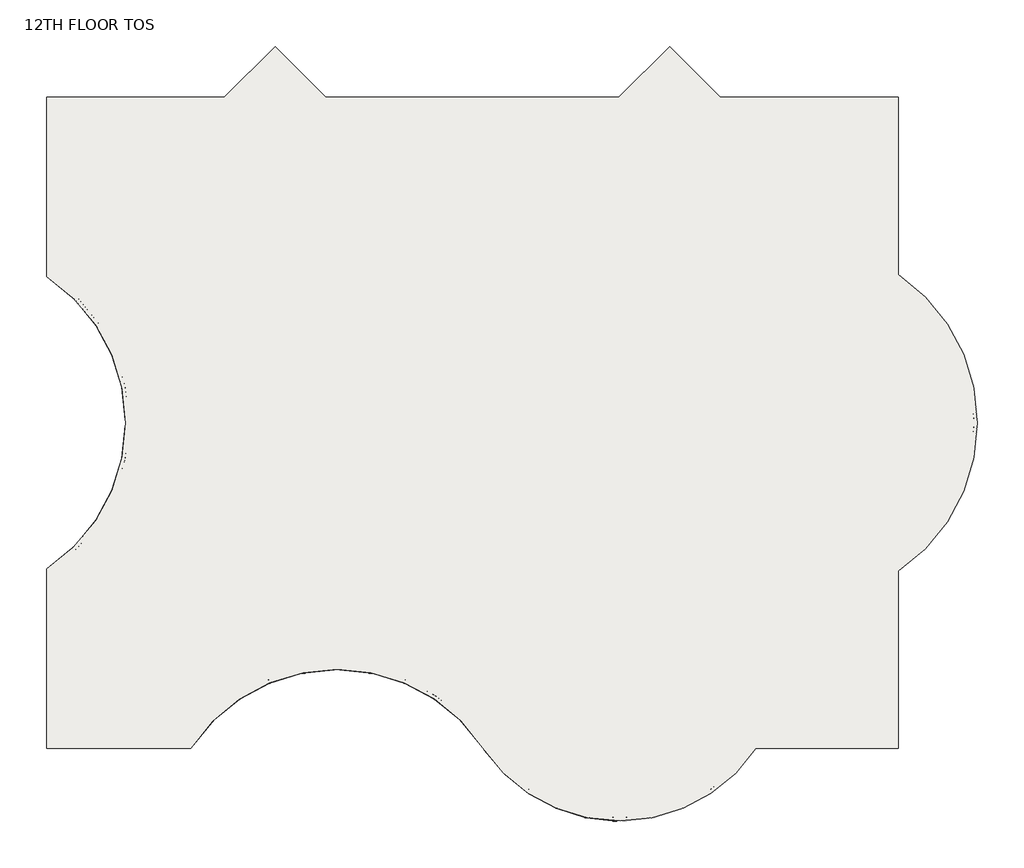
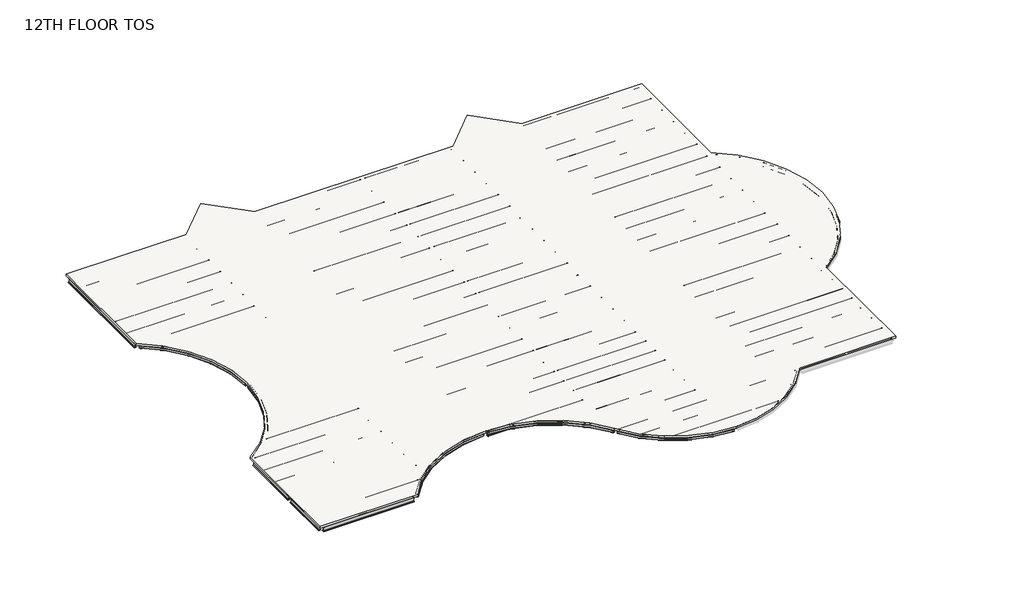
# One storey, part 1 of 2: 86 beams, 1 slab.
"""IFC4 building model written with IfcOpenShell, lengths in millimetres."""

from ifc_helpers import new_model, si_unit, frame, origin, place, context, project, spatial, polyline, circle_curve, transform, mapped, element, save
from ifc_brep_helpers import plane_surface, cylinder_surface, revolved_surface, advanced_brep
from components import m_hss_square_hss203_2x203_2x9_5_914ff4eb, m_hss_square_hss203_2x203_2x9_5_0e3d8e6e, m_hss_square_hss203_2x203_2x9_5_16dc1c03, m_hss_square_hss203_2x203_2x9_5_18346204, m_hss_square_hss203_2x203_2x9_5_d5f1e8c4, ub_universal_beams_ub254x102x28_4e7f3726, ub_universal_beams_ub305x165x40_c4d0385b, ub_universal_beams_ub305x165x40_d3abc31d, ub_universal_beams_ub305x165x40_0c73730f, ub_universal_beams_ub305x165x40_2a963f0c, ub_universal_beams_ub305x165x40_0a5f2f96, ub_universal_beams_ub305x165x40_d1f7c369, ub_universal_beams_ub305x165x40_83d7b7d5, ub_universal_beams_ub305x165x40_729a4ea5, ub_universal_beams_ub305x165x40_71dfa851, ub_universal_beams_ub305x165x40_619b5398, ub_universal_beams_ub305x165x40_c3492db1, ub_universal_beams_ub305x165x40_8f1c350d, ub_universal_beams_ub305x165x40_3afb5f90, ub_universal_beams_ub305x165x40_767d1929, ub_universal_beams_ub305x165x40_5941ca45, ub_universal_beams_ub356x171x51_ef72dcdd, ub_universal_beams_ub356x171x51_7f80702c, ub_universal_beams_ub356x171x51_dfc36663, ub_universal_beams_ub356x171x51_405a853e, ub_universal_beams_ub356x171x51_e47b7055, ub_universal_beams_ub356x171x51_e97f8d2e, ub_universal_beams_ub356x171x51_11d6b780, ub_universal_beams_ub356x171x51_76b2d20b, ub_universal_beams_ub356x171x51_145ecd4b, ub_universal_beams_ub356x171x51_c7dff8d2, ub_universal_beams_ub356x171x51_834c6e34, ub_universal_beams_ub356x171x51_a38b99de, ub_universal_beams_ub356x171x51_d8f4cdde, ub_universal_beams_ub356x171x51_8094f821, ub_universal_beams_ub356x171x51_e661f2e4, ub_universal_beams_ub356x171x51_3ee91673, ub_universal_beams_ub356x171x51_a871b283, ub_universal_beams_ub356x171x51_741bae58

model = new_model("IFC4")

# Units and contexts
model_context = context("Model", 3, world=origin())
ifc_project = project(units=[si_unit("LENGTHUNIT", "METRE", prefix="MILLI")], contexts=[model_context])

# Site, building, storey
site = spatial("IfcSite", under=ifc_project)
building = spatial("IfcBuilding", under=site)
storey = spatial("IfcBuildingStorey", under=building, Name="12TH FLOOR TOS", Elevation=54711.6)

# Beams
placement = place(None, origin())
m_hss_square_hss203_2x203_2x9_5_shape = m_hss_square_hss203_2x203_2x9_5_914ff4eb(model_context)
element("IfcBeam", 1, ObjectType="M_HSS Square : HSS203.2X203.2X9.5", at=placement, inside=storey, context=model_context, shape_type="MappedRepresentation", body=[
    mapped(m_hss_square_hss203_2x203_2x9_5_shape, transform((22710.575, 155.575, 54610.1), x_axis=(-0.552849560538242, 0.8332810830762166, 0.0), y_axis=(-0.8332810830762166, -0.552849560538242, 0.0), z_axis=(0.0, 0.0, 1.0))),
])
m_hss_square_hss203_2x203_2x9_5_2_shape = m_hss_square_hss203_2x203_2x9_5_0e3d8e6e(model_context)
element("IfcBeam", 2, ObjectType="M_HSS Square : HSS203.2X203.2X9.5", at=placement, inside=storey, context=model_context, shape_type="MappedRepresentation", body=[
    mapped(m_hss_square_hss203_2x203_2x9_5_2_shape, transform((155.575, 9299.575, 54610.1), x_axis=(0.8332810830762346, 0.5528495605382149, 0.0), y_axis=(-0.5528495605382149, 0.8332810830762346, 0.0), z_axis=(0.0, 0.0, 1.0))),
])
m_hss_square_hss203_2x203_2x9_5_3_shape = m_hss_square_hss203_2x203_2x9_5_16dc1c03(model_context)
element("IfcBeam", 3, ObjectType="M_HSS Square : HSS203.2X203.2X9.5", at=placement, inside=storey, context=model_context, shape_type="MappedRepresentation", body=[
    mapped(m_hss_square_hss203_2x203_2x9_5_3_shape, transform((155.575, 24539.575, 54610.1), x_axis=(0.8332810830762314, -0.5528495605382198, 0.0), y_axis=(0.5528495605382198, 0.8332810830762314, 0.0), z_axis=(0.0, 0.0, 1.0))),
])
m_hss_square_hss203_2x203_2x9_5_4_shape = m_hss_square_hss203_2x203_2x9_5_18346204(model_context)
element("IfcBeam", 4, ObjectType="M_HSS Square : HSS203.2X203.2X9.5", at=placement, inside=storey, context=model_context, shape_type="MappedRepresentation", body=[
    mapped(m_hss_square_hss203_2x203_2x9_5_4_shape, transform((29734.7266693, -3601.398624, 54610.1), x_axis=(-0.9999968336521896, -0.0025164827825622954, 0.0), y_axis=(0.0025164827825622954, -0.9999968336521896, 0.0), z_axis=(0.0, 0.0, 1.0))),
])
m_hss_square_hss203_2x203_2x9_5_5_shape = m_hss_square_hss203_2x203_2x9_5_d5f1e8c4(model_context)
element("IfcBeam", 5, ObjectType="M_HSS Square : HSS203.2X203.2X9.5", at=placement, inside=storey, context=model_context, shape_type="MappedRepresentation", body=[
    mapped(m_hss_square_hss203_2x203_2x9_5_5_shape, transform((15096.4572854, 4244.5731081, 54610.1), x_axis=(-0.9999997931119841, 0.0006432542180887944, 0.0), y_axis=(-0.0006432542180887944, -0.9999997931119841, 0.0), z_axis=(0.0, 0.0, 1.0))),
])
ub_universal_beams_ub254x102x28_shape = ub_universal_beams_ub254x102x28_4e7f3726(model_context)
element("IfcBeam", 6, ObjectType="UB-Universal Beams : UB254x102x28", at=placement, inside=storey, context=model_context, shape_type="MappedRepresentation", body=[
    mapped(ub_universal_beams_ub254x102x28_shape, transform((9299.575, 3210.915913, 54581.4), x_axis=(0.0, -1.0, 0.0), y_axis=(1.0, 0.0, 0.0), z_axis=(0.0, 0.0, 1.0))),
])
ub_universal_beams_ub305x165x40_shape = ub_universal_beams_ub305x165x40_c4d0385b(model_context)
element("IfcBeam", 7, ObjectType="UB-Universal Beams : UB305x165x40", at=placement, inside=storey, context=model_context, shape_type="MappedRepresentation", body=[
    mapped(ub_universal_beams_ub305x165x40_shape, transform((4727.575, 30635.575, 54559.9), x_axis=(1.0, 0.0, 0.0), y_axis=(0.0, 1.0, 0.0), z_axis=(0.0, 0.0, 1.0))),
])
element("IfcBeam", 8, ObjectType="UB-Universal Beams : UB305x165x40", at=placement, inside=storey, context=model_context, shape_type="MappedRepresentation", body=[
    mapped(ub_universal_beams_ub305x165x40_shape, transform((4727.575, 29111.575, 54559.9), x_axis=(1.0, 0.0, 0.0), y_axis=(0.0, 1.0, 0.0), z_axis=(0.0, 0.0, 1.0))),
])
element("IfcBeam", 9, ObjectType="UB-Universal Beams : UB305x165x40", at=placement, inside=storey, context=model_context, shape_type="MappedRepresentation", body=[
    mapped(ub_universal_beams_ub305x165x40_shape, transform((4727.575, 27587.575, 54559.9), x_axis=(1.0, 0.0, 0.0), y_axis=(0.0, 1.0, 0.0), z_axis=(0.0, 0.0, 1.0))),
])
element("IfcBeam", 10, ObjectType="UB-Universal Beams : UB305x165x40", at=placement, inside=storey, context=model_context, shape_type="MappedRepresentation", body=[
    mapped(ub_universal_beams_ub305x165x40_shape, transform((4727.575, 26063.575, 54559.9), x_axis=(1.0, 0.0, 0.0), y_axis=(0.0, 1.0, 0.0), z_axis=(0.0, 0.0, 1.0))),
])
element("IfcBeam", 11, ObjectType="UB-Universal Beams : UB305x165x40", at=placement, inside=storey, context=model_context, shape_type="MappedRepresentation", body=[
    mapped(ub_universal_beams_ub305x165x40_shape, transform((4727.575, 4727.575, 54559.9), x_axis=(-1.0, 0.0, 0.0), y_axis=(0.0, -1.0, 0.0), z_axis=(0.0, 0.0, 1.0))),
])
element("IfcBeam", 12, ObjectType="UB-Universal Beams : UB305x165x40", at=placement, inside=storey, context=model_context, shape_type="MappedRepresentation", body=[
    mapped(ub_universal_beams_ub305x165x40_shape, transform((4727.575, 6251.575, 54559.9), x_axis=(-1.0, 0.0, 0.0), y_axis=(0.0, -1.0, 0.0), z_axis=(0.0, 0.0, 1.0))),
])
element("IfcBeam", 13, ObjectType="UB-Universal Beams : UB305x165x40", at=placement, inside=storey, context=model_context, shape_type="MappedRepresentation", body=[
    mapped(ub_universal_beams_ub305x165x40_shape, transform((4727.575, 7775.575, 54559.9), x_axis=(-1.0, 0.0, 0.0), y_axis=(0.0, -1.0, 0.0), z_axis=(0.0, 0.0, 1.0))),
])
ub_universal_beams_ub305x165x40_2_shape = ub_universal_beams_ub305x165x40_d3abc31d(model_context)
element("IfcBeam", 14, ObjectType="UB-Universal Beams : UB305x165x40", at=placement, inside=storey, context=model_context, shape_type="MappedRepresentation", body=[
    mapped(ub_universal_beams_ub305x165x40_2_shape, transform((11885.575, 28938.325, 54559.9), x_axis=(1.0, 0.0, 0.0), y_axis=(0.0, 1.0, 0.0), z_axis=(0.0, 0.0, 1.0))),
])
element("IfcBeam", 15, ObjectType="UB-Universal Beams : UB305x165x40", at=placement, inside=storey, context=model_context, shape_type="MappedRepresentation", body=[
    mapped(ub_universal_beams_ub305x165x40_2_shape, transform((11885.575, 27472.075, 54559.9), x_axis=(1.0, 0.0, 0.0), y_axis=(0.0, 1.0, 0.0), z_axis=(0.0, 0.0, 1.0))),
])
element("IfcBeam", 16, ObjectType="UB-Universal Beams : UB305x165x40", at=placement, inside=storey, context=model_context, shape_type="MappedRepresentation", body=[
    mapped(ub_universal_beams_ub305x165x40_2_shape, transform((11885.575, 26005.825, 54559.9), x_axis=(1.0, 0.0, 0.0), y_axis=(0.0, 1.0, 0.0), z_axis=(0.0, 0.0, 1.0))),
])
element("IfcBeam", 17, ObjectType="UB-Universal Beams : UB305x165x40", at=placement, inside=storey, context=model_context, shape_type="MappedRepresentation", body=[
    mapped(ub_universal_beams_ub305x165x40_2_shape, transform((11885.575, 23015.575, 54559.9), x_axis=(1.0, 0.0, 0.0), y_axis=(0.0, 1.0, 0.0), z_axis=(0.0, 0.0, 1.0))),
])
element("IfcBeam", 18, ObjectType="UB-Universal Beams : UB305x165x40", at=placement, inside=storey, context=model_context, shape_type="MappedRepresentation", body=[
    mapped(ub_universal_beams_ub305x165x40_2_shape, transform((11885.575, 21491.575, 54559.9), x_axis=(1.0, 0.0, 0.0), y_axis=(0.0, 1.0, 0.0), z_axis=(0.0, 0.0, 1.0))),
])
element("IfcBeam", 19, ObjectType="UB-Universal Beams : UB305x165x40", at=placement, inside=storey, context=model_context, shape_type="MappedRepresentation", body=[
    mapped(ub_universal_beams_ub305x165x40_2_shape, transform((11885.575, 19967.575, 54559.9), x_axis=(1.0, 0.0, 0.0), y_axis=(0.0, 1.0, 0.0), z_axis=(0.0, 0.0, 1.0))),
])
element("IfcBeam", 20, ObjectType="UB-Universal Beams : UB305x165x40", at=placement, inside=storey, context=model_context, shape_type="MappedRepresentation", body=[
    mapped(ub_universal_beams_ub305x165x40_2_shape, transform((11885.575, 18443.575, 54559.9), x_axis=(1.0, 0.0, 0.0), y_axis=(0.0, 1.0, 0.0), z_axis=(0.0, 0.0, 1.0))),
])
element("IfcBeam", 21, ObjectType="UB-Universal Beams : UB305x165x40", at=placement, inside=storey, context=model_context, shape_type="MappedRepresentation", body=[
    mapped(ub_universal_beams_ub305x165x40_2_shape, transform((11885.575, 15395.575, 54559.9), x_axis=(1.0, 0.0, 0.0), y_axis=(0.0, 1.0, 0.0), z_axis=(0.0, 0.0, 1.0))),
])
element("IfcBeam", 22, ObjectType="UB-Universal Beams : UB305x165x40", at=placement, inside=storey, context=model_context, shape_type="MappedRepresentation", body=[
    mapped(ub_universal_beams_ub305x165x40_2_shape, transform((11885.575, 13871.575, 54559.9), x_axis=(1.0, 0.0, 0.0), y_axis=(0.0, 1.0, 0.0), z_axis=(0.0, 0.0, 1.0))),
])
element("IfcBeam", 23, ObjectType="UB-Universal Beams : UB305x165x40", at=placement, inside=storey, context=model_context, shape_type="MappedRepresentation", body=[
    mapped(ub_universal_beams_ub305x165x40_2_shape, transform((11885.575, 12347.575, 54559.9), x_axis=(1.0, 0.0, 0.0), y_axis=(0.0, 1.0, 0.0), z_axis=(0.0, 0.0, 1.0))),
])
element("IfcBeam", 24, ObjectType="UB-Universal Beams : UB305x165x40", at=placement, inside=storey, context=model_context, shape_type="MappedRepresentation", body=[
    mapped(ub_universal_beams_ub305x165x40_2_shape, transform((11885.575, 10823.575, 54559.9), x_axis=(1.0, 0.0, 0.0), y_axis=(0.0, 1.0, 0.0), z_axis=(0.0, 0.0, 1.0))),
])
element("IfcBeam", 25, ObjectType="UB-Universal Beams : UB305x165x40", at=placement, inside=storey, context=model_context, shape_type="MappedRepresentation", body=[
    mapped(ub_universal_beams_ub305x165x40_2_shape, transform((11885.575, 5026.1840956, 54559.9), x_axis=(-1.0, 0.0, 0.0), y_axis=(0.0, -1.0, 0.0), z_axis=(0.0, 0.0, 1.0))),
])
element("IfcBeam", 26, ObjectType="UB-Universal Beams : UB305x165x40", at=placement, inside=storey, context=model_context, shape_type="MappedRepresentation", body=[
    mapped(ub_universal_beams_ub305x165x40_2_shape, transform((11885.575, 6450.6477304, 54559.9), x_axis=(-1.0, 0.0, 0.0), y_axis=(0.0, -1.0, 0.0), z_axis=(0.0, 0.0, 1.0))),
])
element("IfcBeam", 27, ObjectType="UB-Universal Beams : UB305x165x40", at=placement, inside=storey, context=model_context, shape_type="MappedRepresentation", body=[
    mapped(ub_universal_beams_ub305x165x40_2_shape, transform((11885.575, 7875.1113652, 54559.9), x_axis=(-1.0, 0.0, 0.0), y_axis=(0.0, -1.0, 0.0), z_axis=(0.0, 0.0, 1.0))),
])
ub_universal_beams_ub305x165x40_3_shape = ub_universal_beams_ub305x165x40_0c73730f(model_context)
element("IfcBeam", 28, ObjectType="UB-Universal Beams : UB305x165x40", at=placement, inside=storey, context=model_context, shape_type="MappedRepresentation", body=[
    mapped(ub_universal_beams_ub305x165x40_3_shape, transform((18591.075, 5492.5943214, 54559.9), x_axis=(-1.0, 0.0, 0.0), y_axis=(0.0, -1.0, 0.0), z_axis=(0.0, 0.0, 1.0))),
])
element("IfcBeam", 29, ObjectType="UB-Universal Beams : UB305x165x40", at=placement, inside=storey, context=model_context, shape_type="MappedRepresentation", body=[
    mapped(ub_universal_beams_ub305x165x40_3_shape, transform((18591.075, 6761.5878809, 54559.9), x_axis=(-1.0, 0.0, 0.0), y_axis=(0.0, -1.0, 0.0), z_axis=(0.0, 0.0, 1.0))),
])
element("IfcBeam", 30, ObjectType="UB-Universal Beams : UB305x165x40", at=placement, inside=storey, context=model_context, shape_type="MappedRepresentation", body=[
    mapped(ub_universal_beams_ub305x165x40_3_shape, transform((18591.075, 8030.5814405, 54559.9), x_axis=(-1.0, 0.0, 0.0), y_axis=(0.0, -1.0, 0.0), z_axis=(0.0, 0.0, 1.0))),
])
element("IfcBeam", 31, ObjectType="UB-Universal Beams : UB305x165x40", at=placement, inside=storey, context=model_context, shape_type="MappedRepresentation", body=[
    mapped(ub_universal_beams_ub305x165x40_3_shape, transform((18591.075, 15395.575, 54559.9), x_axis=(1.0, 0.0, 0.0), y_axis=(0.0, 1.0, 0.0), z_axis=(0.0, 0.0, 1.0))),
])
element("IfcBeam", 32, ObjectType="UB-Universal Beams : UB305x165x40", at=placement, inside=storey, context=model_context, shape_type="MappedRepresentation", body=[
    mapped(ub_universal_beams_ub305x165x40_3_shape, transform((18591.075, 13871.575, 54559.9), x_axis=(1.0, 0.0, 0.0), y_axis=(0.0, 1.0, 0.0), z_axis=(0.0, 0.0, 1.0))),
])
element("IfcBeam", 33, ObjectType="UB-Universal Beams : UB305x165x40", at=placement, inside=storey, context=model_context, shape_type="MappedRepresentation", body=[
    mapped(ub_universal_beams_ub305x165x40_3_shape, transform((18591.075, 12347.575, 54559.9), x_axis=(1.0, 0.0, 0.0), y_axis=(0.0, 1.0, 0.0), z_axis=(0.0, 0.0, 1.0))),
])
element("IfcBeam", 34, ObjectType="UB-Universal Beams : UB305x165x40", at=placement, inside=storey, context=model_context, shape_type="MappedRepresentation", body=[
    mapped(ub_universal_beams_ub305x165x40_3_shape, transform((18591.075, 10823.575, 54559.9), x_axis=(1.0, 0.0, 0.0), y_axis=(0.0, 1.0, 0.0), z_axis=(0.0, 0.0, 1.0))),
])
ub_universal_beams_ub305x165x40_4_shape = ub_universal_beams_ub305x165x40_2a963f0c(model_context)
element("IfcBeam", 35, ObjectType="UB-Universal Beams : UB305x165x40", at=placement, inside=storey, context=model_context, shape_type="MappedRepresentation", body=[
    mapped(ub_universal_beams_ub305x165x40_4_shape, transform((26211.075, 15395.575, 54559.9), x_axis=(1.0, 0.0, 0.0), y_axis=(0.0, 1.0, 0.0), z_axis=(0.0, 0.0, 1.0))),
])
element("IfcBeam", 36, ObjectType="UB-Universal Beams : UB305x165x40", at=placement, inside=storey, context=model_context, shape_type="MappedRepresentation", body=[
    mapped(ub_universal_beams_ub305x165x40_4_shape, transform((26211.075, 13871.575, 54559.9), x_axis=(1.0, 0.0, 0.0), y_axis=(0.0, 1.0, 0.0), z_axis=(0.0, 0.0, 1.0))),
])
element("IfcBeam", 37, ObjectType="UB-Universal Beams : UB305x165x40", at=placement, inside=storey, context=model_context, shape_type="MappedRepresentation", body=[
    mapped(ub_universal_beams_ub305x165x40_4_shape, transform((26211.075, 12347.575, 54559.9), x_axis=(1.0, 0.0, 0.0), y_axis=(0.0, 1.0, 0.0), z_axis=(0.0, 0.0, 1.0))),
])
element("IfcBeam", 38, ObjectType="UB-Universal Beams : UB305x165x40", at=placement, inside=storey, context=model_context, shape_type="MappedRepresentation", body=[
    mapped(ub_universal_beams_ub305x165x40_4_shape, transform((26211.075, 10823.575, 54559.9), x_axis=(1.0, 0.0, 0.0), y_axis=(0.0, 1.0, 0.0), z_axis=(0.0, 0.0, 1.0))),
])
element("IfcBeam", 39, ObjectType="UB-Universal Beams : UB305x165x40", at=placement, inside=storey, context=model_context, shape_type="MappedRepresentation", body=[
    mapped(ub_universal_beams_ub305x165x40_4_shape, transform((26211.075, 5508.325, 54559.9), x_axis=(-1.0, 0.0, 0.0), y_axis=(0.0, -1.0, 0.0), z_axis=(0.0, 0.0, 1.0))),
])
element("IfcBeam", 40, ObjectType="UB-Universal Beams : UB305x165x40", at=placement, inside=storey, context=model_context, shape_type="MappedRepresentation", body=[
    mapped(ub_universal_beams_ub305x165x40_4_shape, transform((26211.075, 6772.075, 54559.9), x_axis=(-1.0, 0.0, 0.0), y_axis=(0.0, -1.0, 0.0), z_axis=(0.0, 0.0, 1.0))),
])
element("IfcBeam", 41, ObjectType="UB-Universal Beams : UB305x165x40", at=placement, inside=storey, context=model_context, shape_type="MappedRepresentation", body=[
    mapped(ub_universal_beams_ub305x165x40_4_shape, transform((26211.075, 8035.825, 54559.9), x_axis=(-1.0, 0.0, 0.0), y_axis=(0.0, -1.0, 0.0), z_axis=(0.0, 0.0, 1.0))),
])
element("IfcBeam", 42, ObjectType="UB-Universal Beams : UB305x165x40", at=placement, inside=storey, context=model_context, shape_type="MappedRepresentation", body=[
    mapped(ub_universal_beams_ub305x165x40_4_shape, transform((26211.075, 1518.575, 54559.9), x_axis=(-1.0, 0.0, 0.0), y_axis=(0.0, -1.0, 0.0), z_axis=(0.0, 0.0, 1.0))),
])
element("IfcBeam", 43, ObjectType="UB-Universal Beams : UB305x165x40", at=placement, inside=storey, context=model_context, shape_type="MappedRepresentation", body=[
    mapped(ub_universal_beams_ub305x165x40_4_shape, transform((26211.075, 2881.575, 54559.9), x_axis=(-1.0, 0.0, 0.0), y_axis=(0.0, -1.0, 0.0), z_axis=(0.0, 0.0, 1.0))),
])
ub_universal_beams_ub305x165x40_5_shape = ub_universal_beams_ub305x165x40_0a5f2f96(model_context)
element("IfcBeam", 44, ObjectType="UB-Universal Beams : UB305x165x40", at=placement, inside=storey, context=model_context, shape_type="MappedRepresentation", body=[
    mapped(ub_universal_beams_ub305x165x40_5_shape, transform((29713.575, -2349.0918253, 54559.9), x_axis=(-1.0, 0.0, 0.0), y_axis=(0.0, -1.0, 0.0), z_axis=(0.0, 0.0, 1.0))),
])
ub_universal_beams_ub305x165x40_6_shape = ub_universal_beams_ub305x165x40_d1f7c369(model_context)
element("IfcBeam", 45, ObjectType="UB-Universal Beams : UB305x165x40", at=placement, inside=storey, context=model_context, shape_type="MappedRepresentation", body=[
    mapped(ub_universal_beams_ub305x165x40_6_shape, transform((29713.575, -1096.7584126, 54559.9), x_axis=(-1.0, 0.0, 0.0), y_axis=(0.0, -1.0, 0.0), z_axis=(0.0, 0.0, 1.0))),
])
ub_universal_beams_ub305x165x40_7_shape = ub_universal_beams_ub305x165x40_83d7b7d5(model_context)
element("IfcBeam", 46, ObjectType="UB-Universal Beams : UB305x165x40", at=placement, inside=storey, context=model_context, shape_type="MappedRepresentation", body=[
    mapped(ub_universal_beams_ub305x165x40_7_shape, transform((22157.3041106, 1518.575, 54559.9), x_axis=(-1.0, 0.0, 0.0), y_axis=(0.0, -1.0, 0.0), z_axis=(0.0, 0.0, 1.0))),
])
ub_universal_beams_ub305x165x40_8_shape = ub_universal_beams_ub305x165x40_729a4ea5(model_context)
element("IfcBeam", 47, ObjectType="UB-Universal Beams : UB305x165x40", at=placement, inside=storey, context=model_context, shape_type="MappedRepresentation", body=[
    mapped(ub_universal_beams_ub305x165x40_8_shape, transform((21302.1545844, 2881.575, 54559.9), x_axis=(-1.0, 0.0, 0.0), y_axis=(0.0, -1.0, 0.0), z_axis=(0.0, 0.0, 1.0))),
])
ub_universal_beams_ub305x165x40_9_shape = ub_universal_beams_ub305x165x40_71dfa851(model_context)
element("IfcBeam", 48, ObjectType="UB-Universal Beams : UB305x165x40", at=placement, inside=storey, context=model_context, shape_type="MappedRepresentation", body=[
    mapped(ub_universal_beams_ub305x165x40_9_shape, transform((10511.0323166, 3601.7204608, 54559.9), x_axis=(-1.0, 0.0, 0.0), y_axis=(0.0, -1.0, 0.0), z_axis=(0.0, 0.0, 1.0))),
])
ub_universal_beams_ub305x165x40_10_shape = ub_universal_beams_ub305x165x40_619b5398(model_context)
element("IfcBeam", 49, ObjectType="UB-Universal Beams : UB305x165x40", at=placement, inside=storey, context=model_context, shape_type="MappedRepresentation", body=[
    mapped(ub_universal_beams_ub305x165x40_10_shape, transform((4447.6838282, 1679.575, 54559.9), x_axis=(-1.0, 0.0, 0.0), y_axis=(0.0, -1.0, 0.0), z_axis=(0.0, 0.0, 1.0))),
])
ub_universal_beams_ub305x165x40_11_shape = ub_universal_beams_ub305x165x40_c3492db1(model_context)
element("IfcBeam", 50, ObjectType="UB-Universal Beams : UB305x165x40", at=placement, inside=storey, context=model_context, shape_type="MappedRepresentation", body=[
    mapped(ub_universal_beams_ub305x165x40_11_shape, transform((4727.575, 3203.575, 54559.9), x_axis=(-1.0, 0.0, 0.0), y_axis=(0.0, -1.0, 0.0), z_axis=(0.0, 0.0, 1.0))),
])
ub_universal_beams_ub305x165x40_12_shape = ub_universal_beams_ub305x165x40_8f1c350d(model_context)
element("IfcBeam", 51, ObjectType="UB-Universal Beams : UB305x165x40", at=placement, inside=storey, context=model_context, shape_type="MappedRepresentation", body=[
    mapped(ub_universal_beams_ub305x165x40_12_shape, transform((6708.1318611, 15395.575, 54559.9), x_axis=(1.0, 0.0, 0.0), y_axis=(0.0, 1.0, 0.0), z_axis=(0.0, 0.0, 1.0))),
])
element("IfcBeam", 52, ObjectType="UB-Universal Beams : UB305x165x40", at=placement, inside=storey, context=model_context, shape_type="MappedRepresentation", body=[
    mapped(ub_universal_beams_ub305x165x40_12_shape, transform((6708.1318611, 18443.575, 54559.9), x_axis=(1.0, 0.0, 0.0), y_axis=(0.0, 1.0, 0.0), z_axis=(0.0, 0.0, 1.0))),
])
ub_universal_beams_ub305x165x40_13_shape = ub_universal_beams_ub305x165x40_3afb5f90(model_context)
element("IfcBeam", 53, ObjectType="UB-Universal Beams : UB305x165x40", at=placement, inside=storey, context=model_context, shape_type="MappedRepresentation", body=[
    mapped(ub_universal_beams_ub305x165x40_13_shape, transform((6510.6153272, 13871.575, 54559.9), x_axis=(1.0, 0.0, 0.0), y_axis=(0.0, 1.0, 0.0), z_axis=(0.0, 0.0, 1.0))),
])
element("IfcBeam", 54, ObjectType="UB-Universal Beams : UB305x165x40", at=placement, inside=storey, context=model_context, shape_type="MappedRepresentation", body=[
    mapped(ub_universal_beams_ub305x165x40_13_shape, transform((6510.6153272, 19967.575, 54559.9), x_axis=(1.0, 0.0, 0.0), y_axis=(0.0, 1.0, 0.0), z_axis=(0.0, 0.0, 1.0))),
])
ub_universal_beams_ub305x165x40_14_shape = ub_universal_beams_ub305x165x40_767d1929(model_context)
element("IfcBeam", 55, ObjectType="UB-Universal Beams : UB305x165x40", at=placement, inside=storey, context=model_context, shape_type="MappedRepresentation", body=[
    mapped(ub_universal_beams_ub305x165x40_14_shape, transform((6159.5874928, 12347.575, 54559.9), x_axis=(1.0, 0.0, 0.0), y_axis=(0.0, 1.0, 0.0), z_axis=(0.0, 0.0, 1.0))),
])
element("IfcBeam", 56, ObjectType="UB-Universal Beams : UB305x165x40", at=placement, inside=storey, context=model_context, shape_type="MappedRepresentation", body=[
    mapped(ub_universal_beams_ub305x165x40_14_shape, transform((6159.5874928, 21491.575, 54559.9), x_axis=(1.0, 0.0, 0.0), y_axis=(0.0, 1.0, 0.0), z_axis=(0.0, 0.0, 1.0))),
])
ub_universal_beams_ub305x165x40_15_shape = ub_universal_beams_ub305x165x40_5941ca45(model_context)
element("IfcBeam", 57, ObjectType="UB-Universal Beams : UB305x165x40", at=placement, inside=storey, context=model_context, shape_type="MappedRepresentation", body=[
    mapped(ub_universal_beams_ub305x165x40_15_shape, transform((5607.9405309, 10823.575, 54559.9), x_axis=(1.0, 0.0, 0.0), y_axis=(0.0, 1.0, 0.0), z_axis=(0.0, 0.0, 1.0))),
])
element("IfcBeam", 58, ObjectType="UB-Universal Beams : UB305x165x40", at=placement, inside=storey, context=model_context, shape_type="MappedRepresentation", body=[
    mapped(ub_universal_beams_ub305x165x40_15_shape, transform((5607.9405309, 23015.575, 54559.9), x_axis=(1.0, 0.0, 0.0), y_axis=(0.0, 1.0, 0.0), z_axis=(0.0, 0.0, 1.0))),
])
ub_universal_beams_ub356x171x51_shape = ub_universal_beams_ub356x171x51_ef72dcdd(model_context)
element("IfcBeam", 59, ObjectType="UB-Universal Beams : UB356x171x51", at=placement, inside=storey, context=model_context, shape_type="MappedRepresentation", body=[
    mapped(ub_universal_beams_ub356x171x51_shape, transform((9299.575, 6772.075, 54534.1), x_axis=(0.0, -1.0, 0.0), y_axis=(1.0, 0.0, 0.0), z_axis=(0.0, 0.0, 1.0))),
])
element("IfcBeam", 60, ObjectType="UB-Universal Beams : UB356x171x51", at=placement, inside=storey, context=model_context, shape_type="MappedRepresentation", body=[
    mapped(ub_universal_beams_ub356x171x51_shape, transform((29711.575, 6772.075, 54534.1), x_axis=(0.0, 1.0, 0.0), y_axis=(-1.0, 0.0, 0.0), z_axis=(0.0, 0.0, 1.0))),
])
element("IfcBeam", 61, ObjectType="UB-Universal Beams : UB356x171x51", at=placement, inside=storey, context=model_context, shape_type="MappedRepresentation", body=[
    mapped(ub_universal_beams_ub356x171x51_shape, transform((22710.575, 6772.075, 54534.1), x_axis=(0.0, -1.0, 0.0), y_axis=(1.0, 0.0, 0.0), z_axis=(0.0, 0.0, 1.0))),
])
ub_universal_beams_ub356x171x51_2_shape = ub_universal_beams_ub356x171x51_7f80702c(model_context)
element("IfcBeam", 62, ObjectType="UB-Universal Beams : UB356x171x51", at=placement, inside=storey, context=model_context, shape_type="MappedRepresentation", body=[
    mapped(ub_universal_beams_ub356x171x51_2_shape, transform((3813.075, 155.575, 54534.1), x_axis=(-1.0, 0.0, 0.0), y_axis=(0.0, -1.0, 0.0), z_axis=(0.0, 0.0, 1.0))),
])
ub_universal_beams_ub356x171x51_3_shape = ub_universal_beams_ub356x171x51_dfc36663(model_context)
element("IfcBeam", 63, ObjectType="UB-Universal Beams : UB356x171x51", at=placement, inside=storey, context=model_context, shape_type="MappedRepresentation", body=[
    mapped(ub_universal_beams_ub356x171x51_3_shape, transform((155.575, 2200.075, 54534.1), x_axis=(0.0, 1.0, 0.0), y_axis=(-1.0, 0.0, 0.0), z_axis=(0.0, 0.0, 1.0))),
])
ub_universal_beams_ub356x171x51_4_shape = ub_universal_beams_ub356x171x51_405a853e(model_context)
element("IfcBeam", 64, ObjectType="UB-Universal Beams : UB356x171x51", at=placement, inside=storey, context=model_context, shape_type="MappedRepresentation", body=[
    mapped(ub_universal_beams_ub356x171x51_4_shape, transform((155.575, 6772.075, 54534.1), x_axis=(0.0, 1.0, 0.0), y_axis=(-1.0, 0.0, 0.0), z_axis=(0.0, 0.0, 1.0))),
])
ub_universal_beams_ub356x171x51_5_shape = ub_universal_beams_ub356x171x51_e47b7055(model_context)
element("IfcBeam", 65, ObjectType="UB-Universal Beams : UB356x171x51", at=placement, inside=storey, context=model_context, shape_type="MappedRepresentation", body=[
    mapped(ub_universal_beams_ub356x171x51_5_shape, transform((155.575, 29111.575, 54534.1), x_axis=(0.0, 1.0, 0.0), y_axis=(-1.0, 0.0, 0.0), z_axis=(0.0, 0.0, 1.0))),
])
ub_universal_beams_ub356x171x51_6_shape = ub_universal_beams_ub356x171x51_e97f8d2e(model_context)
element("IfcBeam", 66, ObjectType="UB-Universal Beams : UB356x171x51", at=placement, inside=storey, context=model_context, shape_type="MappedRepresentation", body=[
    mapped(ub_universal_beams_ub356x171x51_6_shape, transform((4727.575, 24539.575, 54534.1), x_axis=(1.0, 0.0, 0.0), y_axis=(0.0, 1.0, 0.0), z_axis=(0.0, 0.0, 1.0))),
])
ub_universal_beams_ub356x171x51_7_shape = ub_universal_beams_ub356x171x51_11d6b780(model_context)
element("IfcBeam", 67, ObjectType="UB-Universal Beams : UB356x171x51", at=placement, inside=storey, context=model_context, shape_type="MappedRepresentation", body=[
    mapped(ub_universal_beams_ub356x171x51_7_shape, transform((11885.575, 24539.575, 54534.1), x_axis=(1.0, 0.0, 0.0), y_axis=(0.0, 1.0, 0.0), z_axis=(0.0, 0.0, 1.0))),
])
element("IfcBeam", 68, ObjectType="UB-Universal Beams : UB356x171x51", at=placement, inside=storey, context=model_context, shape_type="MappedRepresentation", body=[
    mapped(ub_universal_beams_ub356x171x51_7_shape, transform((11885.575, 9299.575, 54534.1), x_axis=(-1.0, 0.0, 0.0), y_axis=(0.0, -1.0, 0.0), z_axis=(0.0, 0.0, 1.0))),
])
element("IfcBeam", 69, ObjectType="UB-Universal Beams : UB356x171x51", at=placement, inside=storey, context=model_context, shape_type="MappedRepresentation", body=[
    mapped(ub_universal_beams_ub356x171x51_7_shape, transform((11885.575, 16919.575, 54534.1), x_axis=(1.0, 0.0, 0.0), y_axis=(0.0, 1.0, 0.0), z_axis=(0.0, 0.0, 1.0))),
])
ub_universal_beams_ub356x171x51_8_shape = ub_universal_beams_ub356x171x51_76b2d20b(model_context)
element("IfcBeam", 70, ObjectType="UB-Universal Beams : UB356x171x51", at=placement, inside=storey, context=model_context, shape_type="MappedRepresentation", body=[
    mapped(ub_universal_beams_ub356x171x51_8_shape, transform((18591.075, 9299.575, 54534.1), x_axis=(-1.0, 0.0, 0.0), y_axis=(0.0, -1.0, 0.0), z_axis=(0.0, 0.0, 1.0))),
])
ub_universal_beams_ub356x171x51_9_shape = ub_universal_beams_ub356x171x51_145ecd4b(model_context)
element("IfcBeam", 71, ObjectType="UB-Universal Beams : UB356x171x51", at=placement, inside=storey, context=model_context, shape_type="MappedRepresentation", body=[
    mapped(ub_universal_beams_ub356x171x51_9_shape, transform((26211.075, 9299.575, 54534.1), x_axis=(-1.0, 0.0, 0.0), y_axis=(0.0, -1.0, 0.0), z_axis=(0.0, 0.0, 1.0))),
])
element("IfcBeam", 72, ObjectType="UB-Universal Beams : UB356x171x51", at=placement, inside=storey, context=model_context, shape_type="MappedRepresentation", body=[
    mapped(ub_universal_beams_ub356x171x51_9_shape, transform((26211.075, 4244.575, 54534.1), x_axis=(-1.0, 0.0, 0.0), y_axis=(0.0, -1.0, 0.0), z_axis=(0.0, 0.0, 1.0))),
])
ub_universal_beams_ub356x171x51_10_shape = ub_universal_beams_ub356x171x51_c7dff8d2(model_context)
element("IfcBeam", 73, ObjectType="UB-Universal Beams : UB356x171x51", at=placement, inside=storey, context=model_context, shape_type="MappedRepresentation", body=[
    mapped(ub_universal_beams_ub356x171x51_10_shape, transform((4727.575, 9299.575, 54534.1), x_axis=(-1.0, 0.0, 0.0), y_axis=(0.0, -1.0, 0.0), z_axis=(0.0, 0.0, 1.0))),
])
ub_universal_beams_ub356x171x51_11_shape = ub_universal_beams_ub356x171x51_834c6e34(model_context)
element("IfcBeam", 74, ObjectType="UB-Universal Beams : UB356x171x51", at=placement, inside=storey, context=model_context, shape_type="MappedRepresentation", body=[
    mapped(ub_universal_beams_ub356x171x51_11_shape, transform((14471.575, 6761.5878809, 54534.1), x_axis=(0.0, -1.0, 0.0), y_axis=(1.0, 0.0, 0.0), z_axis=(0.0, 0.0, 1.0))),
])
ub_universal_beams_ub356x171x51_12_shape = ub_universal_beams_ub356x171x51_a38b99de(model_context)
element("IfcBeam", 75, ObjectType="UB-Universal Beams : UB356x171x51", at=placement, inside=storey, context=model_context, shape_type="MappedRepresentation", body=[
    mapped(ub_universal_beams_ub356x171x51_12_shape, transform((9299.575, 13109.575, 54534.1), x_axis=(0.0, 1.0, 0.0), y_axis=(-1.0, 0.0, 0.0), z_axis=(0.0, 0.0, 1.0))),
])
element("IfcBeam", 76, ObjectType="UB-Universal Beams : UB356x171x51", at=placement, inside=storey, context=model_context, shape_type="MappedRepresentation", body=[
    mapped(ub_universal_beams_ub356x171x51_12_shape, transform((9299.575, 20729.575, 54534.1), x_axis=(0.0, 1.0, 0.0), y_axis=(-1.0, 0.0, 0.0), z_axis=(0.0, 0.0, 1.0))),
])
element("IfcBeam", 77, ObjectType="UB-Universal Beams : UB356x171x51", at=placement, inside=storey, context=model_context, shape_type="MappedRepresentation", body=[
    mapped(ub_universal_beams_ub356x171x51_12_shape, transform((14471.575, 20729.575, 54534.1), x_axis=(0.0, -1.0, 0.0), y_axis=(1.0, 0.0, 0.0), z_axis=(0.0, 0.0, 1.0))),
])
element("IfcBeam", 78, ObjectType="UB-Universal Beams : UB356x171x51", at=placement, inside=storey, context=model_context, shape_type="MappedRepresentation", body=[
    mapped(ub_universal_beams_ub356x171x51_12_shape, transform((14471.575, 13109.575, 54534.1), x_axis=(0.0, -1.0, 0.0), y_axis=(1.0, 0.0, 0.0), z_axis=(0.0, 0.0, 1.0))),
])
element("IfcBeam", 79, ObjectType="UB-Universal Beams : UB356x171x51", at=placement, inside=storey, context=model_context, shape_type="MappedRepresentation", body=[
    mapped(ub_universal_beams_ub356x171x51_12_shape, transform((22710.575, 13109.575, 54534.1), x_axis=(0.0, -1.0, 0.0), y_axis=(1.0, 0.0, 0.0), z_axis=(0.0, 0.0, 1.0))),
])
element("IfcBeam", 80, ObjectType="UB-Universal Beams : UB356x171x51", at=placement, inside=storey, context=model_context, shape_type="MappedRepresentation", body=[
    mapped(ub_universal_beams_ub356x171x51_12_shape, transform((29711.575, 13109.575, 54534.1), x_axis=(0.0, 1.0, 0.0), y_axis=(-1.0, 0.0, 0.0), z_axis=(0.0, 0.0, 1.0))),
])
ub_universal_beams_ub356x171x51_13_shape = ub_universal_beams_ub356x171x51_d8f4cdde(model_context)
element("IfcBeam", 81, ObjectType="UB-Universal Beams : UB356x171x51", at=placement, inside=storey, context=model_context, shape_type="MappedRepresentation", body=[
    mapped(ub_universal_beams_ub356x171x51_13_shape, transform((9299.575, 29111.575, 54534.1), x_axis=(0.0, 1.0, 0.0), y_axis=(-1.0, 0.0, 0.0), z_axis=(0.0, 0.0, 1.0))),
])
ub_universal_beams_ub356x171x51_14_shape = ub_universal_beams_ub356x171x51_8094f821(model_context)
element("IfcBeam", 82, ObjectType="UB-Universal Beams : UB356x171x51", at=placement, inside=storey, context=model_context, shape_type="MappedRepresentation", body=[
    mapped(ub_universal_beams_ub356x171x51_14_shape, transform((6772.075, 16919.575, 54534.1), x_axis=(1.0, 0.0, 0.0), y_axis=(0.0, 1.0, 0.0), z_axis=(0.0, 0.0, 1.0))),
])
ub_universal_beams_ub356x171x51_15_shape = ub_universal_beams_ub356x171x51_e661f2e4(model_context)
element("IfcBeam", 83, ObjectType="UB-Universal Beams : UB356x171x51", at=placement, inside=storey, context=model_context, shape_type="MappedRepresentation", body=[
    mapped(ub_universal_beams_ub356x171x51_15_shape, transform((29713.575, 155.575, 54534.1), x_axis=(-1.0, 0.0, 0.0), y_axis=(0.0, -1.0, 0.0), z_axis=(0.0, 0.0, 1.0))),
])
ub_universal_beams_ub356x171x51_16_shape = ub_universal_beams_ub356x171x51_3ee91673(model_context)
element("IfcBeam", 84, ObjectType="UB-Universal Beams : UB356x171x51", at=placement, inside=storey, context=model_context, shape_type="MappedRepresentation", body=[
    mapped(ub_universal_beams_ub356x171x51_16_shape, transform((18900.575, 4244.575, 54534.1), x_axis=(-1.0, 0.0, 0.0), y_axis=(0.0, -1.0, 0.0), z_axis=(0.0, 0.0, 1.0))),
])
ub_universal_beams_ub356x171x51_17_shape = ub_universal_beams_ub356x171x51_a871b283(model_context)
element("IfcBeam", 85, ObjectType="UB-Universal Beams : UB356x171x51", at=placement, inside=storey, context=model_context, shape_type="MappedRepresentation", body=[
    mapped(ub_universal_beams_ub356x171x51_17_shape, transform((22710.575, 2200.075, 54534.1), x_axis=(0.0, -1.0, 0.0), y_axis=(1.0, 0.0, 0.0), z_axis=(0.0, 0.0, 1.0))),
])
ub_universal_beams_ub356x171x51_18_shape = ub_universal_beams_ub356x171x51_741bae58(model_context)
element("IfcBeam", 86, ObjectType="UB-Universal Beams : UB356x171x51", at=placement, inside=storey, context=model_context, shape_type="MappedRepresentation", body=[
    mapped(ub_universal_beams_ub356x171x51_18_shape, transform((29711.575, 2200.075, 54534.1), x_axis=(0.0, -1.0, 0.0), y_axis=(1.0, 0.0, 0.0), z_axis=(0.0, 0.0, 1.0))),
])

# Slab
element("IfcSlab", 87, ObjectType="152mm Concrete With 50mm Metal Deck", at=placement, inside=storey, context=model_context, shape_type="AdvancedBrep", body=[
    advanced_brep(
    [(69.575, 33769.575, 54711.6), (4244.575, 33769.575, 54711.6), (9263.9526336, 33769.575, 54711.6), (11885.575, 36391.1973664, 54711.6), (14507.1973664, 33769.575, 54711.6), (22710.575, 33769.575, 54711.6), (29675.9526336, 33769.575, 54711.6), (32297.575, 36391.1973664, 54711.6), (34919.1973664, 33769.575, 54711.6), (44113.575, 33769.575, 54711.6), (44113.575, 24585.5849139, 54711.6), (44113.575, 9253.5650861, 54711.6), (44113.575, 4244.575, 54711.6), (44113.575, 69.575, 54711.6), (36762.5616677, 69.575, 54711.6), (29734.9430869, -3687.3983517, 54711.6), (22638.9224102, 108.0154965, 54711.6), (15096.4019655, 4158.5731259, 54711.6), (7516.8644167, 69.575, 54711.6), (69.575, 69.575, 54711.6), (69.575, 4244.575, 54711.6), (69.575, 9345.8644167, 54711.6), (69.575, 24493.2855833, 54711.6), (69.575, 33769.575, 54863.6), (69.575, 24493.2855833, 54863.6), (69.575, 9345.8644167, 54863.6), (69.575, 4244.575, 54863.6), (69.575, 69.575, 54863.6), (7516.8644167, 69.575, 54863.6), (15096.4019655, 4158.5731259, 54863.6), (22638.9128269, 108.0299378, 54863.6), (29734.9430869, -3687.3983517, 54863.6), (36762.5616677, 69.575, 54863.6), (44113.575, 69.575, 54863.6), (44113.575, 4244.575, 54863.6), (44113.575, 9253.5650861, 54863.6), (44113.575, 24585.5849139, 54863.6), (44113.575, 33769.575, 54863.6), (34919.1973664, 33769.575, 54863.6), (32297.575, 36391.1973664, 54863.6), (29675.9526336, 33769.575, 54863.6), (22710.575, 33769.575, 54863.6), (14507.1973664, 33769.575, 54863.6), (11885.575, 36391.1973664, 54863.6), (9263.9526336, 33769.575, 54863.6), (4244.575, 33769.575, 54863.6)],
    [
        (0, 1),
        (1, 2),
        (2, 3),
        (3, 4),
        (4, 5),
        (5, 6),
        (6, 7),
        (7, 8),
        (8, 9),
        (9, 10),
        (10, 11, circle_curve(frame((38972.0016324, 16919.575, 54711.6), z_axis=(0.0, 0.0, -1.0), x_axis=(1.0, 0.0, 0.0)), 9230.5733676)),
        (11, 12),
        (12, 13),
        (13, 14),
        (14, 15, circle_curve(frame((29713.575, 4803.825732, 54711.6), z_axis=(0.0, 0.0, -1.0), x_axis=(1.0, 0.0, 0.0)), 8491.2509699)),
        (15, 16, circle_curve(frame((29713.575, 4803.825732, 54711.6), z_axis=(0.0, 0.0, -1.0), x_axis=(1.0, 0.0, 0.0)), 8491.2509699)),
        (16, 17, circle_curve(frame((15090.575, -4899.9983676, 54711.6), z_axis=(0.0, 0.0, 1.0), x_axis=(1.0, 0.0, 0.0)), 9058.5733676)),
        (17, 18, circle_curve(frame((15090.575, -4899.9983676, 54711.6), z_axis=(0.0, 0.0, 1.0), x_axis=(1.0, 0.0, 0.0)), 9058.5733676)),
        (18, 19),
        (19, 20),
        (20, 21),
        (21, 22, circle_curve(frame((-4899.9983676, 16919.575, 54711.6), z_axis=(0.0, 0.0, 1.0), x_axis=(1.0, 0.0, 0.0)), 9058.5733676)),
        (22, 0),
        (23, 24),
        (24, 25, circle_curve(frame((-4899.9983676, 16919.575, 54863.6), z_axis=(0.0, 0.0, -1.0), x_axis=(1.0, 0.0, 0.0)), 9058.5733676)),
        (25, 26),
        (26, 27),
        (27, 28),
        (28, 29, circle_curve(frame((15090.575, -4899.9983676, 54863.6), z_axis=(0.0, 0.0, -1.0), x_axis=(1.0, 0.0, 0.0)), 9058.5733676)),
        (29, 30, circle_curve(frame((15090.575, -4899.9983676, 54863.6), z_axis=(0.0, 0.0, -1.0), x_axis=(1.0, 0.0, 0.0)), 9058.5733676)),
        (30, 31, circle_curve(frame((29713.575, 4803.825732, 54863.6), z_axis=(0.0, 0.0, 1.0), x_axis=(1.0, 0.0, 0.0)), 8491.2509699)),
        (31, 32, circle_curve(frame((29713.575, 4803.825732, 54863.6), z_axis=(0.0, 0.0, 1.0), x_axis=(1.0, 0.0, 0.0)), 8491.2509699)),
        (32, 33),
        (33, 34),
        (34, 35),
        (35, 36, circle_curve(frame((38972.0016324, 16919.575, 54863.6), z_axis=(0.0, 0.0, 1.0), x_axis=(1.0, 0.0, 0.0)), 9230.5733676)),
        (36, 37),
        (37, 38),
        (38, 39),
        (39, 40),
        (40, 41),
        (41, 42),
        (42, 43),
        (43, 44),
        (44, 45),
        (45, 23),
        (0, 23),
        (45, 1),
        (44, 2),
        (43, 3),
        (42, 4),
        (41, 5),
        (40, 6),
        (39, 7),
        (38, 8),
        (37, 9),
        (36, 10),
        (35, 11),
        (34, 12),
        (33, 13),
        (32, 14),
        (31, 15),
        (30, 16),
        (29, 17),
        (28, 18),
        (27, 19),
        (26, 20),
        (25, 21),
        (24, 22),
    ],
    [
        plane_surface(frame((155.575, 33769.575, 54711.6), z_axis=(0.0, 0.0, -1.0), x_axis=(1.0, 0.0, 0.0))),
        plane_surface(frame((155.575, 33769.575, 54863.6), z_axis=(0.0, 0.0, 1.0), x_axis=(-1.0, 0.0, 0.0))),
        plane_surface(frame((69.575, 33769.575, 54711.6), z_axis=(0.0, 1.0, 0.0), x_axis=(0.0, 0.0, 1.0))),
        plane_surface(frame((4244.575, 33769.575, 54711.6), z_axis=(0.0, 1.0, 0.0), x_axis=(0.0, 0.0, 1.0))),
        plane_surface(frame((9263.9526336, 33769.575, 54711.6), z_axis=(-0.7071067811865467, 0.7071067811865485, 0.0), x_axis=(0.0, 0.0, 1.0))),
        plane_surface(frame((11885.575, 36391.1973664, 54711.6), z_axis=(0.7071067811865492, 0.7071067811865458, 0.0), x_axis=(0.0, 0.0, 1.0))),
        plane_surface(frame((14507.1973664, 33769.575, 54711.6), z_axis=(0.0, 1.0, 0.0), x_axis=(0.0, 0.0, 1.0))),
        plane_surface(frame((22710.575, 33769.575, 54711.6), z_axis=(0.0, 1.0, 0.0), x_axis=(0.0, 0.0, 1.0))),
        plane_surface(frame((29675.9526336, 33769.575, 54711.6), z_axis=(-0.7071067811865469, 0.7071067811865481, 0.0), x_axis=(0.0, 0.0, 1.0))),
        plane_surface(frame((32297.575, 36391.1973664, 54711.6), z_axis=(0.7071067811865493, 0.7071067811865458, 0.0), x_axis=(0.0, 0.0, 1.0))),
        plane_surface(frame((34919.1973664, 33769.575, 54711.6), z_axis=(0.0, 1.0, 0.0), x_axis=(0.0, 0.0, 1.0))),
        plane_surface(frame((44113.575, 33769.575, 54711.6), z_axis=(1.0, 0.0, 0.0), x_axis=(0.0, 0.0, 1.0))),
        cylinder_surface(frame((38972.0016324, 16919.575, 54863.6), z_axis=(0.0, 0.0, -1.0), x_axis=(1.0, 0.0, 0.0)), 9230.5733676),
        plane_surface(frame((44113.575, 9253.5650861, 54711.6), z_axis=(1.0, 0.0, 0.0), x_axis=(0.0, 0.0, 1.0))),
        plane_surface(frame((44113.575, 4244.575, 54711.6), z_axis=(1.0, 0.0, 0.0), x_axis=(0.0, 0.0, 1.0))),
        plane_surface(frame((44113.575, 69.575, 54711.6), z_axis=(0.0, -1.0, 0.0), x_axis=(0.0, 0.0, 1.0))),
        cylinder_surface(frame((29713.575, 4803.825732, 54863.6), z_axis=(0.0, 0.0, -1.0), x_axis=(1.0, 0.0, 0.0)), 8491.2509699),
        revolved_surface(polyline([(24149.1483676, -4899.9983676, 54863.6), (24149.1483676, -4899.9983676, 54711.6)]), (15090.575, -4899.9983676, 54863.6), (0.0, 0.0, 1.0)),
        plane_surface(frame((7516.8644167, 69.575, 54711.6), z_axis=(0.0, -1.0, 0.0), x_axis=(0.0, 0.0, 1.0))),
        plane_surface(frame((69.575, 69.575, 54711.6), z_axis=(-1.0, 0.0, 0.0), x_axis=(0.0, 0.0, 1.0))),
        plane_surface(frame((69.575, 4244.575, 54711.6), z_axis=(-1.0, 0.0, 0.0), x_axis=(0.0, 0.0, 1.0))),
        revolved_surface(polyline([(4158.575, 16919.575, 54863.6), (4158.575, 16919.575, 54711.6)]), (-4899.9983676, 16919.575, 54863.6), (0.0, 0.0, 1.0)),
        plane_surface(frame((69.575, 24493.2855833, 54711.6), z_axis=(-1.0, 0.0, 0.0), x_axis=(0.0, 0.0, 1.0))),
    ],
    [
        (0, [[1, 2, 3, 4, 5, 6, 7, 8, 9, 10, 11, 12, 13, 14, 15, 16, 17, 18, 19, 20, 21, 22, 23]]),
        (1, [[24, 25, 26, 27, 28, 29, 30, 31, 32, 33, 34, 35, 36, 37, 38, 39, 40, 41, 42, 43, 44, 45, 46]]),
        (2, [[-1, 47, -46, 48]]),
        (3, [[-2, -48, -45, 49]]),
        (4, [[-3, -49, -44, 50]]),
        (5, [[-4, -50, -43, 51]]),
        (6, [[-5, -51, -42, 52]]),
        (7, [[-6, -52, -41, 53]]),
        (8, [[-7, -53, -40, 54]]),
        (9, [[-8, -54, -39, 55]]),
        (10, [[-9, -55, -38, 56]]),
        (11, [[-10, -56, -37, 57]]),
        (12, [[-11, -57, -36, 58]]),
        (13, [[-12, -58, -35, 59]]),
        (14, [[-13, -59, -34, 60]]),
        (15, [[-14, -60, -33, 61]]),
        (16, [[-15, -61, -32, 62]]),
        (16, [[-16, -62, -31, 63]]),
        (17, [[-17, -63, -30, 64]]),
        (17, [[-18, -64, -29, 65]]),
        (18, [[-19, -65, -28, 66]]),
        (19, [[-20, -66, -27, 67]]),
        (20, [[-21, -67, -26, 68]]),
        (21, [[-22, -68, -25, 69]]),
        (22, [[-23, -69, -24, -47]]),
    ],
),
])

save(model, "model.ifc")
